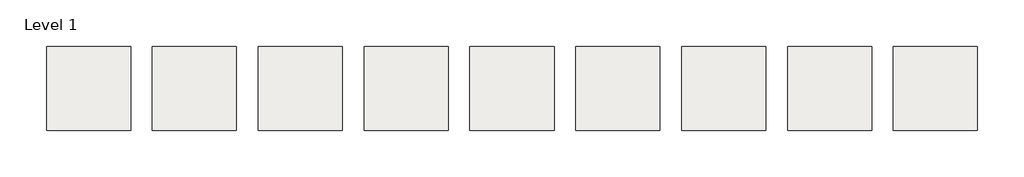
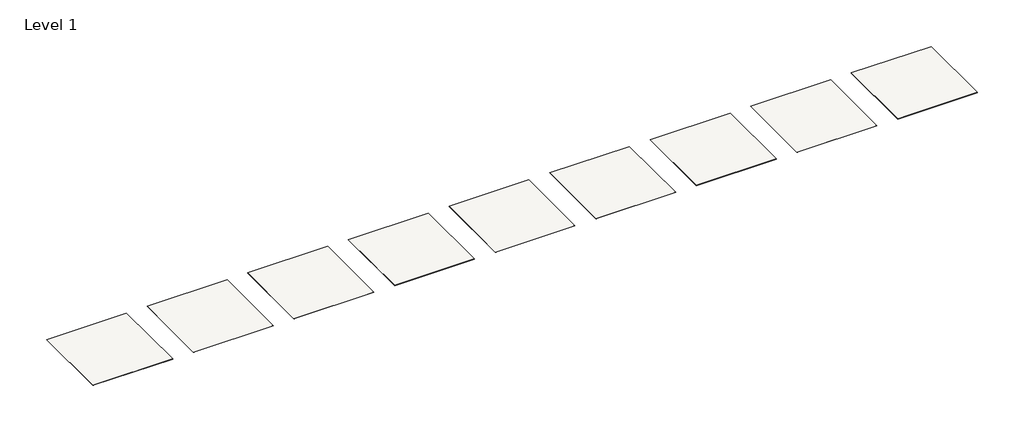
# One storey: 9 slabs.
"""IFC4 building model written with IfcOpenShell, lengths in millimetres."""

from ifc_helpers import new_model, si_unit, frame, origin, place, context, project, spatial, polyline, outline, extrude, element, save

model = new_model("IFC4")

# Units and contexts
model_context = context("Model", 3, world=origin())
ifc_project = project(units=[si_unit("LENGTHUNIT", "METRE", prefix="MILLI")], contexts=[model_context])

# Site, building, storey
site = spatial("IfcSite", under=ifc_project)
building = spatial("IfcBuilding", under=site)
storey = spatial("IfcBuildingStorey", under=building, Name="Level 1", Elevation=0.0)

# Slabs
placement = place(None, origin())
element("IfcSlab", 1, ObjectType="Thesize_Neolith_3mm+-Calacatta C01/C01R - 3600x1200mm - Silk", at=placement, inside=storey, context=model_context, shape_type="SweptSolid", body=[
    extrude(outline(polyline([(18632.6076717, -2257.477561), (18632.6076717, -7257.477561), (13632.6076717, -7257.477561), (13632.6076717, -2257.477561), (18632.6076717, -2257.477561)])), frame((0.0, 0.0, -3.0), z_axis=(0.0, 0.0, 1.0), x_axis=(1.0, 0.0, 0.0)), (0.0, 0.0, 1.0), 3.0),
])
element("IfcSlab", 2, ObjectType="Thesize_Neolith_6mm+-Calacatta C01/C01R - 3200x1500mm - Polish", at=placement, inside=storey, context=model_context, shape_type="SweptSolid", body=[
    extrude(outline(polyline([(24932.6076717, -2257.477561), (24932.6076717, -7257.477561), (19932.6076717, -7257.477561), (19932.6076717, -2257.477561), (24932.6076717, -2257.477561)])), frame((0.0, 0.0, -6.0), z_axis=(0.0, 0.0, 1.0), x_axis=(1.0, 0.0, 0.0)), (0.0, 0.0, 1.0), 6.0),
])
element("IfcSlab", 3, ObjectType="Thesize_Neolith_12mm- Calacatta C01/C01R - 3200x1600mm - Polish", at=placement, inside=storey, context=model_context, shape_type="SweptSolid", body=[
    extrude(outline(polyline([(31232.6076717, -2257.477561), (31232.6076717, -7257.477561), (26232.6076717, -7257.477561), (26232.6076717, -2257.477561), (31232.6076717, -2257.477561)])), frame((0.0, 0.0, -12.0), z_axis=(0.0, 0.0, 1.0), x_axis=(1.0, 0.0, 0.0)), (0.0, 0.0, 1.0), 12.0),
])
element("IfcSlab", 4, ObjectType="Thesize_Neolith_20mm-Calacatta C01/C01R- 3200x1600 mm - Polish", at=placement, inside=storey, context=model_context, shape_type="SweptSolid", body=[
    extrude(outline(polyline([(37532.6076717, -2257.477561), (37532.6076717, -7257.477561), (32532.6076717, -7257.477561), (32532.6076717, -2257.477561), (37532.6076717, -2257.477561)])), frame((0.0, 0.0, -20.0), z_axis=(0.0, 0.0, 1.0), x_axis=(1.0, 0.0, 0.0)), (0.0, 0.0, 1.0), 20.0),
])
element("IfcSlab", 5, ObjectType="Thesize_Neolith_20mm-Calacatta C01/C01R- 3200x1600 mm - Silk", at=placement, inside=storey, context=model_context, shape_type="SweptSolid", body=[
    extrude(outline(polyline([(12332.6076717, -2257.477561), (12332.6076717, -7257.477561), (7332.6076717, -7257.477561), (7332.6076717, -2257.477561), (12332.6076717, -2257.477561)])), frame((0.0, 0.0, -20.0), z_axis=(0.0, 0.0, 1.0), x_axis=(1.0, 0.0, 0.0)), (0.0, 0.0, 1.0), 20.0),
])
element("IfcSlab", 6, ObjectType="Thesize_Neolith_12mm- Calacatta C01/C01R - 3200x1600mm - Silk", at=placement, inside=storey, context=model_context, shape_type="SweptSolid", body=[
    extrude(outline(polyline([(6032.6076717, -2257.477561), (6032.6076717, -7257.477561), (1032.6076717, -7257.477561), (1032.6076717, -2257.477561), (6032.6076717, -2257.477561)])), frame((0.0, 0.0, -12.0), z_axis=(0.0, 0.0, 1.0), x_axis=(1.0, 0.0, 0.0)), (0.0, 0.0, 1.0), 12.0),
])
element("IfcSlab", 7, ObjectType="Thesize_Neolith_6mm+-Calacatta C01/C01R - 3200x1500mm - Silk", at=placement, inside=storey, context=model_context, shape_type="SweptSolid", body=[
    extrude(outline(polyline([(-267.3923283, -2257.477561), (-267.3923283, -7257.477561), (-5267.3923283, -7257.477561), (-5267.3923283, -2257.477561), (-267.3923283, -2257.477561)])), frame((0.0, 0.0, -6.0), z_axis=(0.0, 0.0, 1.0), x_axis=(1.0, 0.0, 0.0)), (0.0, 0.0, 1.0), 6.0),
])
element("IfcSlab", 8, ObjectType="Thesize_Neolith_6mm-Calacatta C01/C01R - 2600x1200mm - Silk", at=placement, inside=storey, context=model_context, shape_type="SweptSolid", body=[
    extrude(outline(polyline([(-6567.3923283, -2257.477561), (-6567.3923283, -7257.477561), (-11567.3923283, -7257.477561), (-11567.3923283, -2257.477561), (-6567.3923283, -2257.477561)])), frame((0.0, 0.0, -6.0), z_axis=(0.0, 0.0, 1.0), x_axis=(1.0, 0.0, 0.0)), (0.0, 0.0, 1.0), 6.0),
])
element("IfcSlab", 9, ObjectType="Thesize_Neolith_6mm-Calacatta C01/C01R - 2600x1200mm - Polish", at=placement, inside=storey, context=model_context, shape_type="SweptSolid", body=[
    extrude(outline(polyline([(-12867.3923283, -2257.477561), (-12867.3923283, -7257.477561), (-17867.3923283, -7257.477561), (-17867.3923283, -2257.477561), (-12867.3923283, -2257.477561)])), frame((0.0, 0.0, -6.0), z_axis=(0.0, 0.0, 1.0), x_axis=(1.0, 0.0, 0.0)), (0.0, 0.0, 1.0), 6.0),
])

save(model, "model.ifc")
